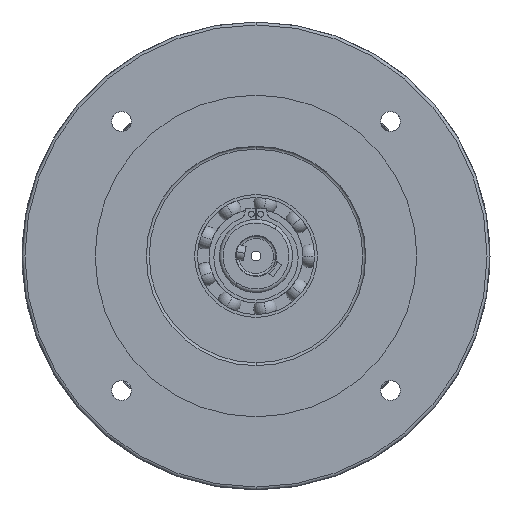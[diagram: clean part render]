
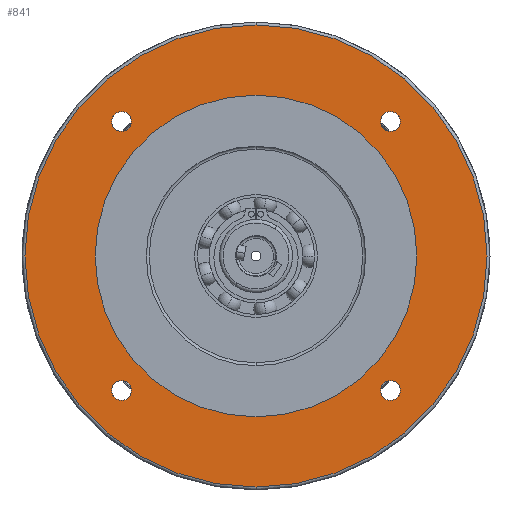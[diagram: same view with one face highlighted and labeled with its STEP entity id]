
A CAD part, front view. The second image highlights one B-rep face of the part: STEP entity #841.
In plain terms, the highlighted planar face has unit normal (0, -1, 0).
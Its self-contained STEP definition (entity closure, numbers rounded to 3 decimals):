
#29 = AXIS2_PLACEMENT_3D ( 'NONE', #7036, #17809, #8570 ) ;
#77 = DIRECTION ( 'NONE',  ( 0., -1., 0. ) ) ;
#514 = FACE_BOUND ( 'NONE', #8168, .T. ) ;
#619 = DIRECTION ( 'NONE',  ( 0., -1., 0. ) ) ;
#841 = ADVANCED_FACE ( 'NONE', ( #4599, #8205, #514, #12313, #16366, #4111 ), #19594, .T. ) ;
#945 = ORIENTED_EDGE ( 'NONE', *, *, #1825, .F. ) ;
#1010 = CARTESIAN_POINT ( 'NONE',  ( 0., 0., 0. ) ) ;
#1209 = CIRCLE ( 'NONE', #13789, 55. ) ;
#1342 = DIRECTION ( 'NONE',  ( 0., -1., 0. ) ) ;
#1369 = CARTESIAN_POINT ( 'NONE',  ( -45.962, 0., 49.362 ) ) ;
#1659 = AXIS2_PLACEMENT_3D ( 'NONE', #13759, #4538, #15312 ) ;
#1746 = CIRCLE ( 'NONE', #7061, 3.4 ) ;
#1825 = EDGE_CURVE ( 'NONE', #6500, #13672, #1746, .T. ) ;
#1881 = DIRECTION ( 'NONE',  ( 0., -1., 0. ) ) ;
#2149 = CARTESIAN_POINT ( 'NONE',  ( 45.962, 0., -42.562 ) ) ;
#2422 = AXIS2_PLACEMENT_3D ( 'NONE', #4920, #15675, #6458 ) ;
#2560 = DIRECTION ( 'NONE',  ( 0., 0., -1. ) ) ;
#2895 = CARTESIAN_POINT ( 'NONE',  ( -45.962, 0., -45.962 ) ) ;
#3100 = ORIENTED_EDGE ( 'NONE', *, *, #7007, .F. ) ;
#3196 = AXIS2_PLACEMENT_3D ( 'NONE', #1010, #11789, #2560 ) ;
#3297 = CIRCLE ( 'NONE', #8611, 3.4 ) ;
#3567 = DIRECTION ( 'NONE',  ( 0., 0., -1. ) ) ;
#3631 = CARTESIAN_POINT ( 'NONE',  ( 0., 0., 79. ) ) ;
#3834 = EDGE_CURVE ( 'NONE', #8880, #11511, #1209, .T. ) ;
#4063 = VERTEX_POINT ( 'NONE', #19208 ) ;
#4111 = FACE_BOUND ( 'NONE', #13886, .T. ) ;
#4426 = DIRECTION ( 'NONE',  ( 0., 0., -1. ) ) ;
#4538 = DIRECTION ( 'NONE',  ( 0., -1., 0. ) ) ;
#4599 = FACE_BOUND ( 'NONE', #19246, .T. ) ;
#4758 = CARTESIAN_POINT ( 'NONE',  ( 0., 0., 0. ) ) ;
#4773 = VERTEX_POINT ( 'NONE', #1369 ) ;
#4920 = CARTESIAN_POINT ( 'NONE',  ( -45.962, 0., 45.962 ) ) ;
#4997 = EDGE_CURVE ( 'NONE', #10209, #4773, #5469, .T. ) ;
#5188 = VERTEX_POINT ( 'NONE', #16123 ) ;
#5200 = AXIS2_PLACEMENT_3D ( 'NONE', #9848, #619, #11392 ) ;
#5319 = EDGE_LOOP ( 'NONE', ( #3100, #945 ) ) ;
#5367 = EDGE_CURVE ( 'NONE', #11511, #8880, #19917, .T. ) ;
#5469 = CIRCLE ( 'NONE', #2422, 3.4 ) ;
#5522 = CIRCLE ( 'NONE', #8067, 3.4 ) ;
#5690 = CARTESIAN_POINT ( 'NONE',  ( 0., 0., -55. ) ) ;
#5731 = EDGE_CURVE ( 'NONE', #10107, #19752, #10057, .T. ) ;
#6008 = ORIENTED_EDGE ( 'NONE', *, *, #5367, .F. ) ;
#6199 = EDGE_CURVE ( 'NONE', #4063, #16111, #3297, .T. ) ;
#6326 = DIRECTION ( 'NONE',  ( 0., 0., -1. ) ) ;
#6458 = DIRECTION ( 'NONE',  ( 0., 0., -1. ) ) ;
#6482 = DIRECTION ( 'NONE',  ( 0., -1., 0. ) ) ;
#6500 = VERTEX_POINT ( 'NONE', #7111 ) ;
#7007 = EDGE_CURVE ( 'NONE', #13672, #6500, #18902, .T. ) ;
#7036 = CARTESIAN_POINT ( 'NONE',  ( -45.962, 0., 45.962 ) ) ;
#7061 = AXIS2_PLACEMENT_3D ( 'NONE', #19806, #1342, #3567 ) ;
#7080 = AXIS2_PLACEMENT_3D ( 'NONE', #2895, #13632, #4426 ) ;
#7111 = CARTESIAN_POINT ( 'NONE',  ( -45.962, 0., -42.562 ) ) ;
#7251 = DIRECTION ( 'NONE',  ( 0., -1., 0. ) ) ;
#7416 = ORIENTED_EDGE ( 'NONE', *, *, #14409, .T. ) ;
#7420 = CARTESIAN_POINT ( 'NONE',  ( -45.962, 0., -49.362 ) ) ;
#7659 = CARTESIAN_POINT ( 'NONE',  ( 45.962, 0., -45.962 ) ) ;
#7825 = ORIENTED_EDGE ( 'NONE', *, *, #16855, .T. ) ;
#8067 = AXIS2_PLACEMENT_3D ( 'NONE', #11124, #1881, #12647 ) ;
#8168 = EDGE_LOOP ( 'NONE', ( #18389, #8673 ) ) ;
#8205 = FACE_BOUND ( 'NONE', #13080, .T. ) ;
#8321 = CIRCLE ( 'NONE', #18947, 79. ) ;
#8436 = ORIENTED_EDGE ( 'NONE', *, *, #19658, .F. ) ;
#8570 = DIRECTION ( 'NONE',  ( 0., 0., -1. ) ) ;
#8611 = AXIS2_PLACEMENT_3D ( 'NONE', #15698, #6482, #17239 ) ;
#8673 = ORIENTED_EDGE ( 'NONE', *, *, #5731, .F. ) ;
#8880 = VERTEX_POINT ( 'NONE', #5690 ) ;
#9215 = DIRECTION ( 'NONE',  ( 0., 0., -1. ) ) ;
#9284 = CARTESIAN_POINT ( 'NONE',  ( 45.962, 0., 45.962 ) ) ;
#9412 = CIRCLE ( 'NONE', #13587, 3.4 ) ;
#9663 = ORIENTED_EDGE ( 'NONE', *, *, #15523, .F. ) ;
#9767 = ORIENTED_EDGE ( 'NONE', *, *, #3834, .F. ) ;
#9848 = CARTESIAN_POINT ( 'NONE',  ( 0., 0., 0. ) ) ;
#10057 = CIRCLE ( 'NONE', #11846, 3.4 ) ;
#10107 = VERTEX_POINT ( 'NONE', #2149 ) ;
#10209 = VERTEX_POINT ( 'NONE', #16252 ) ;
#10841 = DIRECTION ( 'NONE',  ( 0., 0., -1. ) ) ;
#11124 = CARTESIAN_POINT ( 'NONE',  ( 45.962, 0., -45.962 ) ) ;
#11225 = EDGE_LOOP ( 'NONE', ( #7416, #7825 ) ) ;
#11392 = DIRECTION ( 'NONE',  ( 0., 0., -1. ) ) ;
#11511 = VERTEX_POINT ( 'NONE', #16461 ) ;
#11789 = DIRECTION ( 'NONE',  ( 0., -1., 0. ) ) ;
#11846 = AXIS2_PLACEMENT_3D ( 'NONE', #7659, #18418, #9215 ) ;
#12313 = FACE_BOUND ( 'NONE', #5319, .T. ) ;
#12647 = DIRECTION ( 'NONE',  ( 0., 0., -1. ) ) ;
#12716 = CIRCLE ( 'NONE', #29, 3.4 ) ;
#12885 = ORIENTED_EDGE ( 'NONE', *, *, #4997, .F. ) ;
#13080 = EDGE_LOOP ( 'NONE', ( #18539, #8436 ) ) ;
#13108 = CIRCLE ( 'NONE', #5200, 79. ) ;
#13406 = VERTEX_POINT ( 'NONE', #3631 ) ;
#13587 = AXIS2_PLACEMENT_3D ( 'NONE', #9284, #77, #10841 ) ;
#13632 = DIRECTION ( 'NONE',  ( 0., -1., 0. ) ) ;
#13672 = VERTEX_POINT ( 'NONE', #7420 ) ;
#13759 = CARTESIAN_POINT ( 'NONE',  ( 0., 0., 0. ) ) ;
#13789 = AXIS2_PLACEMENT_3D ( 'NONE', #4758, #15528, #6326 ) ;
#13886 = EDGE_LOOP ( 'NONE', ( #9767, #6008 ) ) ;
#14409 = EDGE_CURVE ( 'NONE', #5188, #13406, #8321, .T. ) ;
#15312 = DIRECTION ( 'NONE',  ( 0., 0., -1. ) ) ;
#15523 = EDGE_CURVE ( 'NONE', #4773, #10209, #12716, .T. ) ;
#15528 = DIRECTION ( 'NONE',  ( 0., -1., 0. ) ) ;
#15675 = DIRECTION ( 'NONE',  ( 0., -1., 0. ) ) ;
#15698 = CARTESIAN_POINT ( 'NONE',  ( 45.962, 0., 45.962 ) ) ;
#16111 = VERTEX_POINT ( 'NONE', #17918 ) ;
#16123 = CARTESIAN_POINT ( 'NONE',  ( 0., 0., -79. ) ) ;
#16252 = CARTESIAN_POINT ( 'NONE',  ( -45.962, 0., 42.562 ) ) ;
#16366 = FACE_OUTER_BOUND ( 'NONE', #11225, .T. ) ;
#16451 = CARTESIAN_POINT ( 'NONE',  ( 0., 0., 0. ) ) ;
#16461 = CARTESIAN_POINT ( 'NONE',  ( 0., 0., 55. ) ) ;
#16855 = EDGE_CURVE ( 'NONE', #13406, #5188, #13108, .T. ) ;
#17161 = CARTESIAN_POINT ( 'NONE',  ( 45.962, 0., -49.362 ) ) ;
#17239 = DIRECTION ( 'NONE',  ( 0., 0., -1. ) ) ;
#17809 = DIRECTION ( 'NONE',  ( 0., -1., 0. ) ) ;
#17918 = CARTESIAN_POINT ( 'NONE',  ( 45.962, 0., 49.362 ) ) ;
#18017 = DIRECTION ( 'NONE',  ( 0., 0., -1. ) ) ;
#18389 = ORIENTED_EDGE ( 'NONE', *, *, #19775, .F. ) ;
#18418 = DIRECTION ( 'NONE',  ( 0., -1., 0. ) ) ;
#18539 = ORIENTED_EDGE ( 'NONE', *, *, #6199, .F. ) ;
#18902 = CIRCLE ( 'NONE', #7080, 3.4 ) ;
#18947 = AXIS2_PLACEMENT_3D ( 'NONE', #16451, #7251, #18017 ) ;
#19208 = CARTESIAN_POINT ( 'NONE',  ( 45.962, 0., 42.562 ) ) ;
#19246 = EDGE_LOOP ( 'NONE', ( #12885, #9663 ) ) ;
#19594 = PLANE ( 'NONE',  #3196 ) ;
#19658 = EDGE_CURVE ( 'NONE', #16111, #4063, #9412, .T. ) ;
#19752 = VERTEX_POINT ( 'NONE', #17161 ) ;
#19775 = EDGE_CURVE ( 'NONE', #19752, #10107, #5522, .T. ) ;
#19806 = CARTESIAN_POINT ( 'NONE',  ( -45.962, 0., -45.962 ) ) ;
#19917 = CIRCLE ( 'NONE', #1659, 55. ) ;
